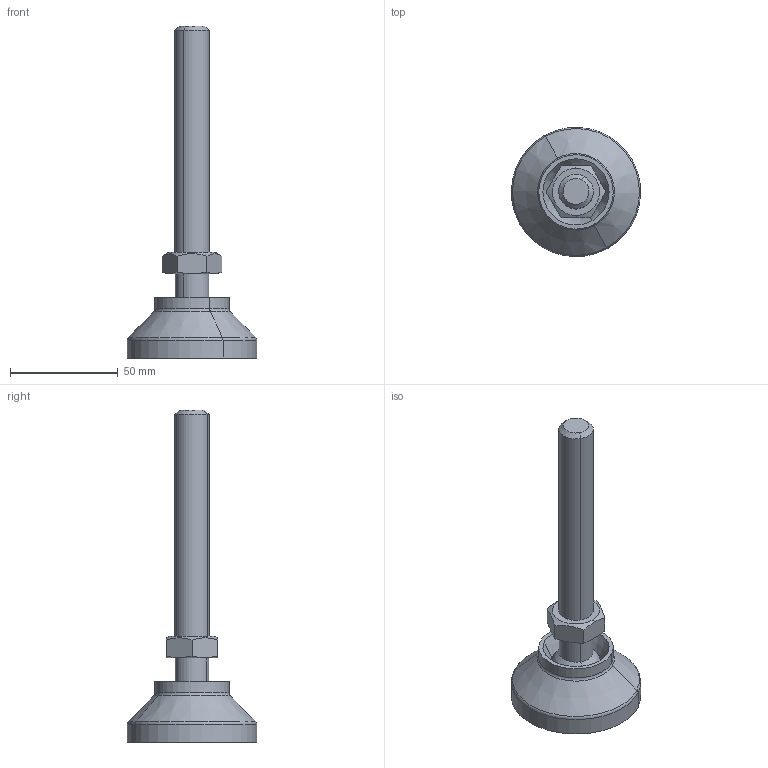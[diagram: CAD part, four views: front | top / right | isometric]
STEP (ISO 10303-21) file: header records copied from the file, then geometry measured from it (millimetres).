
FILE_DESCRIPTION(('CATIA V5 STEP Exchange'),'2;1');
FILE_NAME('C:\Users\ALI OZGUN\Desktop\alhan\ARTICULATED_FEET-PABUCLAR\501601615.stp','2017-09-21T11:53:34+00:00',('none'),('none'),'CATIA Version 5 Release 21 GA (IN-10)','CATIA V5 STEP AP203','none');
FILE_SCHEMA(('CONFIG_CONTROL_DESIGN'));
Length unit declared in the file: millimetre
Products named in the file (1): 501601615
Bounding box: 59.98 x 59.98 x 154 mm (x, y, z)
Volume: 63550.7 mm3; surface area: 22914.7 mm2
Topology: 2 solids, 2 shells, 96 faces, 264 edges, 176 vertices
Faces by surface type: plane 44, cylinder 22, cone 20, sphere 6, torus 4
Entity records: 3114 total; most frequent: CARTESIAN_POINT 983, ORIENTED_EDGE 520, DIRECTION 280, EDGE_CURVE 260, VERTEX_POINT 176, AXIS2_PLACEMENT_3D 147, EDGE_LOOP 104, CIRCLE 100
